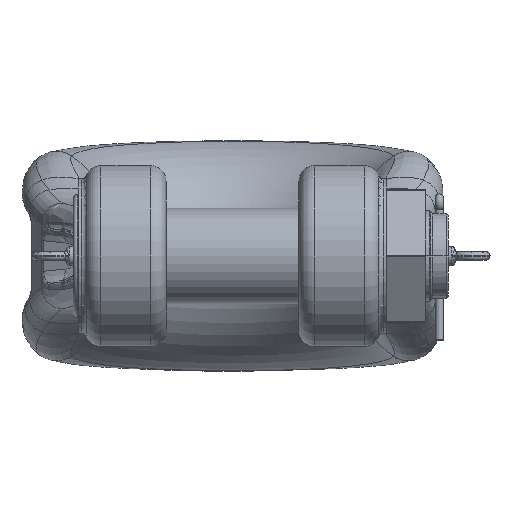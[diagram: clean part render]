
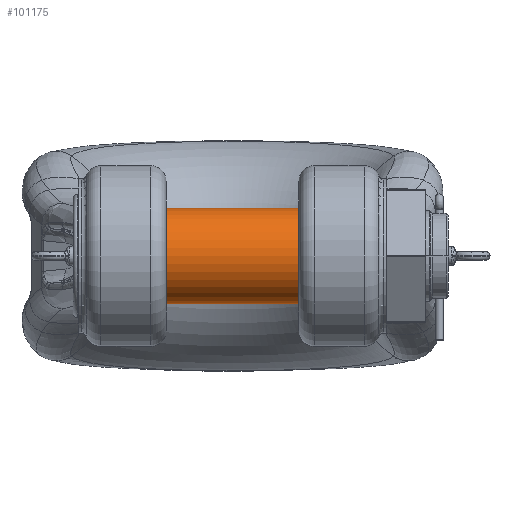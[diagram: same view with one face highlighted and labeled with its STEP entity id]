
A CAD part, front view. The second image highlights one B-rep face of the part: STEP entity #101175.
In plain terms, the highlighted cylindrical face has radius 90 mm (diameter 180 mm), a partial arc.
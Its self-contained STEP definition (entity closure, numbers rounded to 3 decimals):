
#93512=CARTESIAN_POINT('',(6.,0.,0.));
#93513=DIRECTION('',(1.,0.,0.));
#93514=DIRECTION('',(0.,0.,1.));
#93515=AXIS2_PLACEMENT_3D('',#93512,#93513,#93514);
#93520=CARTESIAN_POINT('',(553.,0.,0.));
#93521=DIRECTION('',(-1.,0.,0.));
#93522=DIRECTION('',(0.,0.,-1.));
#93523=AXIS2_PLACEMENT_3D('',#93520,#93521,#93522);
#93528=DIRECTION('',(1.,0.,0.));
#93529=VECTOR('',#93528,547.);
#93530=CARTESIAN_POINT('',(6.,0.,-90.));
#93531=LINE('',#93530,#93529);
#93551=DIRECTION('',(1.,0.,0.));
#93552=VECTOR('',#93551,547.);
#93553=CARTESIAN_POINT('',(6.,0.,90.));
#93554=LINE('',#93553,#93552);
#94054=CARTESIAN_POINT('',(553.,0.,-90.));
#94055=CARTESIAN_POINT('',(553.,0.,90.));
#94056=VERTEX_POINT('',#94054);
#94057=VERTEX_POINT('',#94055);
#94092=CARTESIAN_POINT('',(6.,0.,90.));
#94093=CARTESIAN_POINT('',(6.,0.,-90.));
#94094=VERTEX_POINT('',#94092);
#94095=VERTEX_POINT('',#94093);
#101161=CARTESIAN_POINT('',(-33.,0.,0.));
#101162=DIRECTION('',(-1.,0.,0.));
#101163=DIRECTION('',(0.,0.,1.));
#101164=AXIS2_PLACEMENT_3D('',#101161,#101162,#101163);
#101165=CYLINDRICAL_SURFACE('',#101164,90.);
#101166=ORIENTED_EDGE('',*,*,#101148,.F.);
#101168=ORIENTED_EDGE('',*,*,#101167,.T.);
#101170=ORIENTED_EDGE('',*,*,#101169,.F.);
#101172=ORIENTED_EDGE('',*,*,#101171,.F.);
#101173=EDGE_LOOP('',(#101166,#101168,#101170,#101172));
#101174=FACE_OUTER_BOUND('',#101173,.F.);
#101175=ADVANCED_FACE('',(#101174),#101165,.T.);
#93516=CIRCLE('',#93515,90.);
#93524=CIRCLE('',#93523,90.);
#101148=EDGE_CURVE('',#94094,#94095,#93516,.T.);
#101167=EDGE_CURVE('',#94094,#94057,#93554,.T.);
#101169=EDGE_CURVE('',#94056,#94057,#93524,.T.);
#101171=EDGE_CURVE('',#94095,#94056,#93531,.T.);
